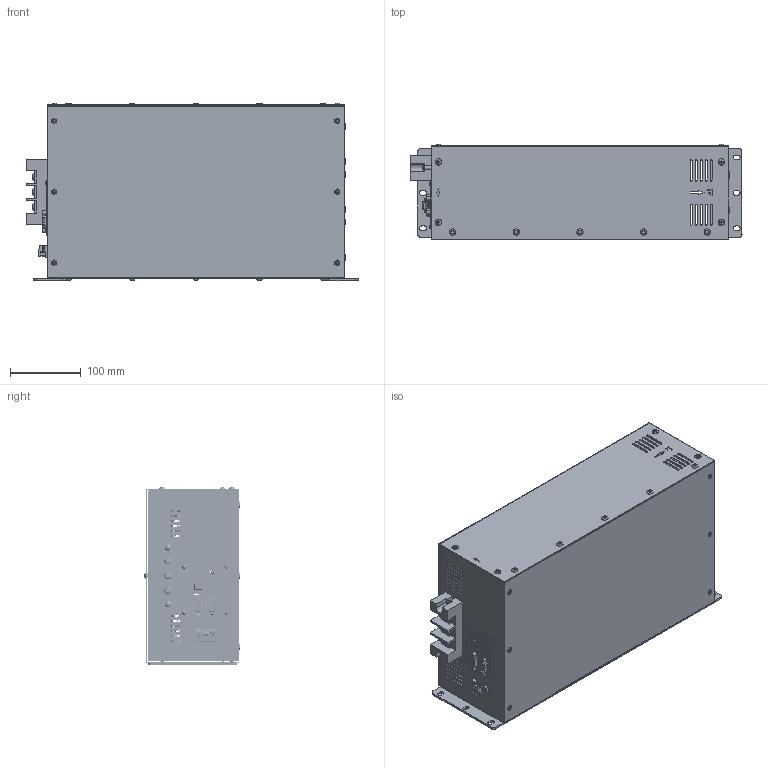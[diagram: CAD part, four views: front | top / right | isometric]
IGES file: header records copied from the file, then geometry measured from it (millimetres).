
Global section: file name: VX3COM_V_2023.03.22_Shrinkwrap_1; native system: Autodesk Inventor 2021; preprocessor: unknown; author: eunsol jang; date: 20230322.172413; units: inch
Bounding box: 468 x 134.59 x 250.54 mm (x, y, z)
Volume: 690274.8 mm3; surface area: 880230.5 mm2
Topology: 7 solids, 7 shells, 4757 faces, 14104 edges, 9757 vertices
Faces by surface type: bspline 4757
